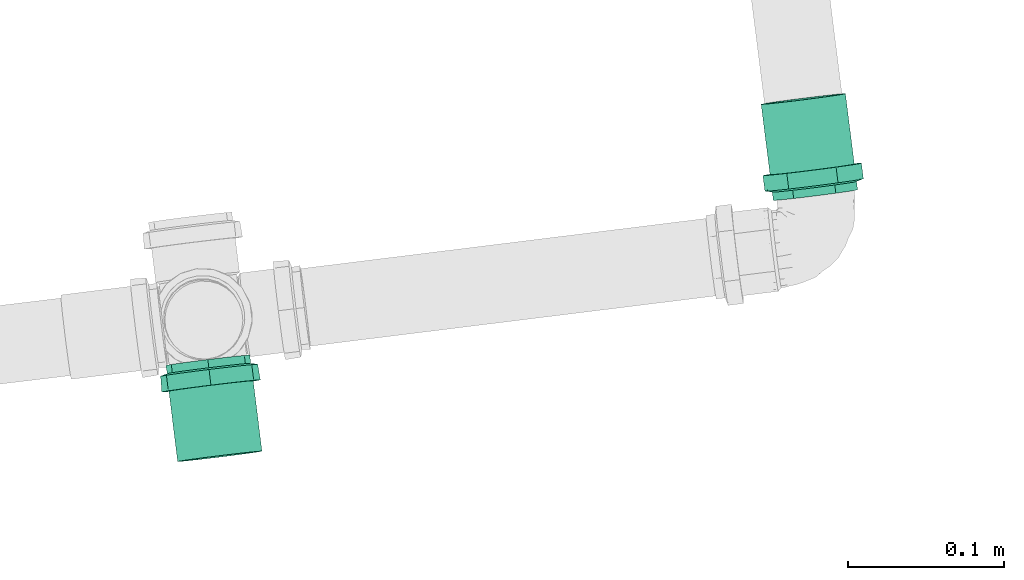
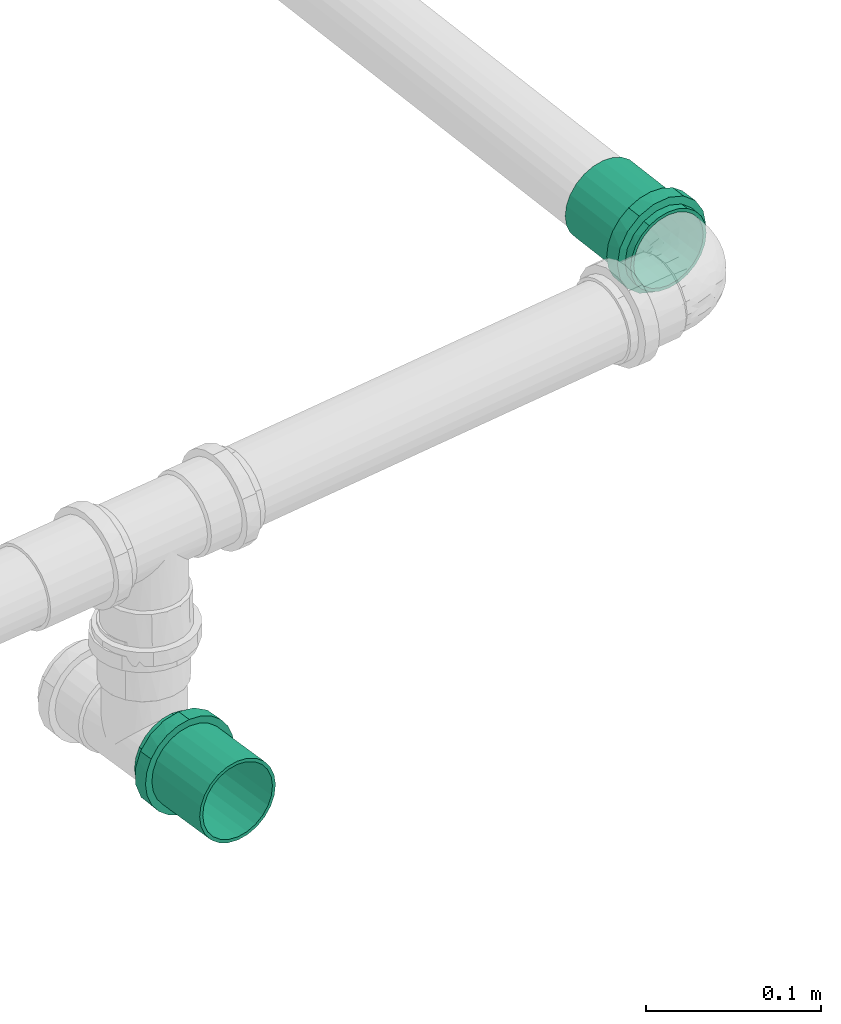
# One storey, part 16 of 97: 2 flow fittings.
"""IFC2X3 building model written with IfcOpenShell, lengths in centimetres."""

from ifc_helpers import new_model, entity, si_unit, converted_unit, derived_unit, direction, frame, origin, place, context, subcontext, project, spatial, faceted_brep, source, transform, mapped, material, type_object, type_shapes, element, save


model = new_model("IFC2X3")

# Units and contexts
model_context = context("Model", 3, precision=0.001, world=origin(), true_north=direction((6.12303176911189e-17, 1.0)))
body_context = subcontext(model_context, "Body", "Model", "MODEL_VIEW")
ifc_project = project(units=[si_unit("LENGTHUNIT", "METRE", prefix="CENTI"), si_unit("AREAUNIT", "SQUARE_METRE"), si_unit("VOLUMEUNIT", "CUBIC_METRE"), converted_unit("PLANEANGLEUNIT", "DEGREE", entity("IfcRatioMeasure", 0.0174532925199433), si_unit("PLANEANGLEUNIT", "RADIAN"), dimensions=[0, 0, 0, 0, 0, 0, 0]), si_unit("MASSUNIT", "GRAM", prefix="KILO"), derived_unit("MASSDENSITYUNIT", [(si_unit("MASSUNIT", "GRAM", prefix="KILO"), 1), (si_unit("LENGTHUNIT", "METRE"), -3)]), derived_unit("MOMENTOFINERTIAUNIT", [(si_unit("LENGTHUNIT", "METRE"), 4)]), si_unit("TIMEUNIT", "SECOND"), si_unit("FREQUENCYUNIT", "HERTZ"), si_unit("THERMODYNAMICTEMPERATUREUNIT", "DEGREE_CELSIUS"), derived_unit("THERMALTRANSMITTANCEUNIT", [(si_unit("MASSUNIT", "GRAM", prefix="KILO"), 1), (si_unit("THERMODYNAMICTEMPERATUREUNIT", "KELVIN"), -1), (si_unit("TIMEUNIT", "SECOND"), -3)]), derived_unit("VOLUMETRICFLOWRATEUNIT", [(si_unit("LENGTHUNIT", "METRE"), 3), (si_unit("TIMEUNIT", "SECOND"), -1)]), si_unit("ELECTRICCURRENTUNIT", "AMPERE"), si_unit("ELECTRICVOLTAGEUNIT", "VOLT"), si_unit("POWERUNIT", "WATT"), si_unit("FORCEUNIT", "NEWTON", prefix="KILO"), si_unit("ILLUMINANCEUNIT", "LUX"), si_unit("LUMINOUSFLUXUNIT", "LUMEN"), si_unit("LUMINOUSINTENSITYUNIT", "CANDELA"), derived_unit("USERDEFINED", [(si_unit("MASSUNIT", "GRAM", prefix="KILO"), -1), (si_unit("LENGTHUNIT", "METRE"), -2), (si_unit("TIMEUNIT", "SECOND"), 3), (si_unit("LUMINOUSFLUXUNIT", "LUMEN"), 1)]), derived_unit("LINEARVELOCITYUNIT", [(si_unit("LENGTHUNIT", "METRE"), 1), (si_unit("TIMEUNIT", "SECOND"), -1)]), si_unit("PRESSUREUNIT", "PASCAL"), derived_unit("USERDEFINED", [(si_unit("LENGTHUNIT", "METRE"), -2), (si_unit("MASSUNIT", "GRAM", prefix="KILO"), 1), (si_unit("TIMEUNIT", "SECOND"), -2)]), derived_unit("LINEARFORCEUNIT", [(si_unit("MASSUNIT", "GRAM", prefix="KILO"), 1), (si_unit("LENGTHUNIT", "METRE"), 1), (si_unit("TIMEUNIT", "SECOND"), -2), (si_unit("LENGTHUNIT", "METRE"), -1)]), derived_unit("PLANARFORCEUNIT", [(si_unit("MASSUNIT", "GRAM", prefix="KILO"), 1), (si_unit("LENGTHUNIT", "METRE"), 1), (si_unit("TIMEUNIT", "SECOND"), -2), (si_unit("LENGTHUNIT", "METRE"), -2)])], contexts=[model_context])

# Site, building, storey
site_placement = place(None, origin())
site = spatial("IfcSite", under=ifc_project, at=site_placement, Name="Default", CompositionType="ELEMENT")
building_placement = place(site_placement, origin())
building = spatial("IfcBuilding", under=site, at=building_placement, Name="HIDROSSANITÁRIO", CompositionType="ELEMENT")
storey_placement = place(building_placement, frame((0.0, 0.0, -260.0)))
storey = spatial("IfcBuildingStorey", under=building, at=storey_placement, Name="TÉRREO-HID", CompositionType="ELEMENT", Elevation=-260.0)

# Flow fittings
ifc_material = material(Name="PVC Branco")
pipe_fitting_type = type_object("IfcPipeFittingType", Name="Luva Simples para Conexão - Serie Normal - Esgoto - MEP - Tigre:Standard", PredefinedType="NOTDEFINED", material=ifc_material)
shared_shape = source(origin(), body_context, "Body", "Brep", [
    faceted_brep([(1.65999999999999, 1.59, -2.75396078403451), (1.65999999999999, 2.24859956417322, -2.24859956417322), (1.65999999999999, 1.35999999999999, -2.35558909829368), (1.65999999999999, 0.703987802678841, -2.62731824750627), (1.65999999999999, 0.82304456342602, -3.07164412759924), (1.65999999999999, 1.9233304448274, -1.92333044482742), (1.65999999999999, 2.75396078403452, -1.59), (1.65999999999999, 2.35558909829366, -1.36000000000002), (1.65999999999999, 2.62731824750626, -0.703987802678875), (1.65999999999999, 3.07164412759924, -0.823044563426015), (1.65999999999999, 2.72, 0.0), (1.65999999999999, 3.18, 0.0), (1.65999999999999, 2.62731824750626, 0.703987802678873), (1.65999999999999, 3.07164412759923, 0.823044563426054), (1.65999999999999, 2.35558909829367, 1.36000000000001), (1.65999999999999, 2.7539607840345, 1.59000000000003), (1.65999999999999, 1.9233304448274, 1.92333044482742), (1.65999999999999, 2.24859956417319, 2.24859956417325), (1.65999999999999, 1.35999999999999, 2.35558909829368), (1.65999999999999, 1.58999999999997, 2.75396078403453), (1.65999999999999, 0.703987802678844, 2.62731824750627), (1.65999999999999, 0.823044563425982, 3.07164412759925), (1.65999999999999, 0.0, 2.72), (1.65999999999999, 0.0, 3.18), (1.65999999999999, -0.703987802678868, 2.62731824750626), (1.65999999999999, -0.823044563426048, 3.07164412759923), (1.65999999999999, -1.36000000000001, 2.35558909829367), (1.65999999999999, -1.59000000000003, 2.7539607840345), (1.65999999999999, -1.92333044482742, 1.9233304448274), (1.65999999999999, -2.24859956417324, 2.2485995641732), (1.65999999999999, -2.35558909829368, 1.35999999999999), (1.65999999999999, -2.75396078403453, 1.58999999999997), (1.65999999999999, -3.07164412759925, 0.823044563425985), (1.65999999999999, -2.62731824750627, 0.703987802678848), (1.65999999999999, -3.18, 0.0), (1.65999999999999, -2.72, 0.0), (1.65999999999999, -3.07164412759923, -0.823044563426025), (1.65999999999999, -2.62731824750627, -0.703987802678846), (1.65999999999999, -2.75396078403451, -1.59000000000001), (1.65999999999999, -2.35558909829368, -1.35999999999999), (1.65999999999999, -2.24859956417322, -2.24859956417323), (1.65999999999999, -1.92333044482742, -1.9233304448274), (1.65999999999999, -1.58999999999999, -2.75396078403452), (1.65999999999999, -1.36000000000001, -2.35558909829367), (1.65999999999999, -0.823044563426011, -3.07164412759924), (1.65999999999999, -0.70398780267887, -2.62731824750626), (1.65999999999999, 0.0, -3.18), (1.65999999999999, 0.0, -2.72), (0.650000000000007, -1.07081089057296, 2.94292196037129), (0.650000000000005, -2.43590738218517, 2.04420038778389), (0.650000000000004, -2.7120498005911, 1.56595386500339), (0.650000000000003, -2.98819221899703, 1.08770734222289), (0.650000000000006, -1.58976972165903, 2.75409372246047), (0.650000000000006, -2.0128385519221, 2.39914705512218), (0.650000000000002, -3.08409610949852, 0.54385367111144), (0.650000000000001, -3.18, 0.0), (0.650000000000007, -0.551852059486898, 3.13175019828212), (0.650000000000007, 0.552637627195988, 3.13161167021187), (0.650000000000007, 0.000392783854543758, 3.13168093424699), (0.650000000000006, 2.01344030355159, 2.39864206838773), (0.650000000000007, 1.07154907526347, 2.94265325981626), (0.650000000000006, 1.59046052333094, 2.75369484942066), (0.650000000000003, 2.98846497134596, 1.08695773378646), (0.650000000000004, 2.7124425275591, 1.56527351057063), (0.650000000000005, 2.43642008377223, 2.0435892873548), (0.650000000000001, 3.18, 0.0), (0.649999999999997, 2.43642008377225, -2.04358928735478), (0.649999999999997, 2.71244252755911, -1.5652735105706), (0.649999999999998, 2.98846497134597, -1.08695773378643), (0.649999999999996, 1.59046052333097, -2.75369484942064), (0.649999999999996, 2.01344030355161, -2.39864206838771), (0.649999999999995, 1.07154907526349, -2.94265325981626), (0.649999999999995, 0.552637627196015, -3.13161167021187), (0.649999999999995, -0.551852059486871, -3.13175019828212), (0.649999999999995, 0.000392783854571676, -3.13168093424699), (0.649999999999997, -2.01283855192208, -2.3991470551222), (0.649999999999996, -1.58976972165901, -2.75409372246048), (0.649999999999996, -1.07081089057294, -2.9429219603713), (0.649999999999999, -2.98819221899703, -1.08770734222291), (0.649999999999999, -2.71204980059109, -1.56595386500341), (0.649999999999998, -2.43590738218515, -2.04420038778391), (0.65, -3.08409610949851, -0.543853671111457), (0.64999999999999, -3.06961738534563, -0.625959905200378), (6.20000000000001, 1.36, -2.35558909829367), (6.20000000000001, 1.92333044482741, -1.92333044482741), (6.20000000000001, 1.24999999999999, -2.1650635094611), (6.20000000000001, 0.647047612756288, -2.41481456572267), (6.20000000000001, 0.70398780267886, -2.62731824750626), (6.20000000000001, 1.76776695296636, -1.76776695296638), (6.20000000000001, 2.35558909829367, -1.36), (6.20000000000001, 2.16506350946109, -1.25000000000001), (6.20000000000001, 2.41481456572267, -0.647047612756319), (6.20000000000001, 2.62731824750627, -0.703987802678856), (6.20000000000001, 2.5, 0.0), (6.20000000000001, 2.72, 0.0), (6.20000000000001, 2.41481456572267, 0.647047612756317), (6.20000000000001, 2.62731824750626, 0.703987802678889), (6.20000000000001, 2.16506350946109, 1.25000000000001), (6.20000000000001, 2.35558909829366, 1.36000000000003), (6.20000000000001, 1.76776695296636, 1.76776695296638), (6.20000000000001, 1.92333044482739, 1.92333044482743), (6.20000000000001, 1.24999999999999, 2.1650635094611), (6.20000000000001, 1.35999999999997, 2.35558909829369), (6.20000000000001, 0.64704761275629, 2.41481456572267), (6.20000000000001, 0.703987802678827, 2.62731824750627), (6.20000000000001, 0.0, 2.5), (6.20000000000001, 0.0, 2.72), (6.20000000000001, -0.647047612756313, 2.41481456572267), (6.20000000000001, -0.703987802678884, 2.62731824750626), (6.20000000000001, -1.25000000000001, 2.16506350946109), (6.20000000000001, -1.36000000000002, 2.35558909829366), (6.20000000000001, -1.76776695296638, 1.76776695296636), (6.20000000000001, -1.92333044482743, 1.92333044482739), (6.20000000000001, -2.1650635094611, 1.24999999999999), (6.20000000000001, -2.35558909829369, 1.35999999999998), (6.20000000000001, -2.62731824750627, 0.703987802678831), (6.20000000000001, -2.41481456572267, 0.647047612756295), (6.20000000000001, -2.72, 0.0), (6.20000000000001, -2.5, 0.0), (6.20000000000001, -2.62731824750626, -0.703987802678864), (6.20000000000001, -2.41481456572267, -0.647047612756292), (6.20000000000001, -2.35558909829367, -1.36000000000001), (6.20000000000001, -2.1650635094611, -1.24999999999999), (6.20000000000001, -1.9233304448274, -1.92333044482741), (6.20000000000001, -1.76776695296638, -1.76776695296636), (6.20000000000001, -1.36, -2.35558909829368), (6.20000000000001, -1.25000000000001, -2.16506350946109), (6.20000000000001, -0.703987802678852, -2.62731824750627), (6.20000000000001, -0.647047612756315, -2.41481456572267), (6.20000000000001, 0.0, -2.72), (6.20000000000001, 0.0, -2.5), (0.0, 1.24999999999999, -2.1650635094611), (0.0, 1.92333044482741, -1.92333044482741), (0.0, 1.36, -2.35558909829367), (0.0, 0.647047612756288, -2.41481456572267), (0.0, 1.76776695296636, -1.76776695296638), (0.0, 2.35558909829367, -1.36), (0.0, 2.16506350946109, -1.25000000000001), (0.0, 2.41481456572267, -0.647047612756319), (0.0, 2.62731824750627, -0.703987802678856), (0.0, 2.5, 0.0), (0.0, 2.72, 0.0), (0.0, 2.41481456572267, 0.647047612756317), (0.0, 2.62731824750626, 0.703987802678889), (0.0, 2.16506350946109, 1.25000000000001), (0.0, 2.35558909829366, 1.36000000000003), (0.0, 1.76776695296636, 1.76776695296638), (0.0, 1.92333044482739, 1.92333044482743), (0.0, 1.24999999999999, 2.1650635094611), (0.0, 1.35999999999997, 2.35558909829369), (0.0, 0.64704761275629, 2.41481456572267), (0.0, 0.703987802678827, 2.62731824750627), (0.0, 0.0, 2.5), (0.0, 0.0, 2.72), (0.0, -0.647047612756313, 2.41481456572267), (0.0, -0.703987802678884, 2.62731824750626), (0.0, -1.25000000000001, 2.16506350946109), (0.0, -1.36000000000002, 2.35558909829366), (0.0, -1.76776695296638, 1.76776695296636), (0.0, -1.92333044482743, 1.92333044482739), (0.0, -2.1650635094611, 1.24999999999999), (0.0, -2.35558909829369, 1.35999999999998), (0.0, -2.62731824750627, 0.703987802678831), (0.0, -2.41481456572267, 0.647047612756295), (0.0, -2.72, 0.0), (0.0, -2.5, 0.0), (0.0, -2.62731824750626, -0.703987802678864), (0.0, -2.41481456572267, -0.647047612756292), (0.0, -2.35558909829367, -1.36000000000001), (0.0, -2.1650635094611, -1.24999999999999), (0.0, -1.9233304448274, -1.92333044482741), (0.0, -1.76776695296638, -1.76776695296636), (0.0, -1.36, -2.35558909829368), (0.0, -1.25000000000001, -2.16506350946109), (0.0, -0.703987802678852, -2.62731824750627), (0.0, -0.647047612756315, -2.41481456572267), (0.0, 0.0, -2.72), (0.0, 0.0, -2.5), (0.0, 0.70398780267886, -2.62731824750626), (0.53, -2.63796899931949, 0.465183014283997), (0.529999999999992, -2.62558467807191, 0.535412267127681), (0.530000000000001, -2.55593799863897, 0.930366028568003), (0.530000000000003, -2.08354342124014, 1.74849844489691), (0.530000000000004, -1.72167322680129, 2.05210062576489), (0.530000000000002, -2.31974070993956, 1.33943223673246), (0.530000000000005, -0.472024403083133, 2.67872972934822), (0.530000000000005, -0.915913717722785, 2.51721626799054), (0.53, -2.72, 0.0), (0.530000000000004, -1.35980303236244, 2.35570280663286), (0.530000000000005, 0.916545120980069, 2.51698643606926), (0.530000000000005, 1.36039390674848, 2.35536163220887), (0.530000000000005, 0.47269633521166, 2.67861123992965), (0.530000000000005, 1.72218793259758, 2.05166868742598), (0.530000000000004, 2.08398195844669, 1.7479757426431), (0.530000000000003, 2.5561712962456, 0.929724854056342), (0.53, 2.72, 0.0), (0.530000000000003, 2.32007662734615, 1.33885029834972), (0.530000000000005, 0.000335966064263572, 2.67867048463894), (0.529999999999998, 2.55617129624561, -0.929724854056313), (0.529999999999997, 2.08398195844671, -1.74797574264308), (0.529999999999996, 1.7221879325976, -2.05166868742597), (0.529999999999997, 2.32007662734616, -1.3388502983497), (0.529999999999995, 0.472696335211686, -2.67861123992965), (0.529999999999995, 0.916545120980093, -2.51698643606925), (0.529999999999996, 1.3603939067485, -2.35536163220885), (0.529999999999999, -2.63796899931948, -0.465183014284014), (0.529999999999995, -0.915913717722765, -2.51721626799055), (0.529999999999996, -1.35980303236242, -2.35570280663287), (0.529999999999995, -0.47202440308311, -2.67872972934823), (0.529999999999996, -1.72167322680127, -2.0521006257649), (0.529999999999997, -2.08354342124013, -1.74849844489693), (0.529999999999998, -2.55593799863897, -0.930366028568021), (0.529999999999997, -2.31974070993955, -1.33943223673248), (0.529999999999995, 0.000335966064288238, -2.67867048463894), (3.9, -2.5, 0.0), (3.9, 2.5, 0.0)], [[[0, 1, 2]], [[0, 2, 3]], [[3, 4, 0]], [[2, 1, 5]], [[6, 5, 1]], [[7, 5, 6]], [[8, 7, 6]], [[8, 6, 9]], [[8, 9, 10]], [[10, 9, 11]], [[12, 10, 11]], [[12, 11, 13]], [[14, 12, 13]], [[14, 13, 15]], [[16, 14, 15]], [[15, 17, 16]], [[17, 18, 16]], [[17, 19, 18]], [[18, 19, 20]], [[21, 20, 19]], [[20, 21, 22]], [[22, 21, 23]], [[22, 23, 24]], [[24, 23, 25]], [[24, 25, 26]], [[27, 26, 25]], [[27, 28, 26]], [[28, 27, 29]], [[30, 28, 29]], [[31, 30, 29]], [[32, 30, 31]], [[33, 30, 32]], [[33, 32, 34]], [[35, 33, 34]], [[36, 35, 34]], [[36, 37, 35]], [[37, 36, 38]], [[39, 37, 38]], [[39, 38, 40]], [[39, 40, 41]], [[40, 42, 41]], [[41, 42, 43]], [[43, 42, 44]], [[44, 45, 43]], [[46, 45, 44]], [[4, 47, 46]], [[46, 47, 45]], [[4, 3, 47]], [[48, 27, 25]], [[31, 29, 49]], [[31, 49, 50, 51]], [[52, 53, 27]], [[32, 51, 54]], [[54, 55, 34]], [[54, 34, 32]], [[25, 56, 48]], [[49, 29, 53]], [[23, 57, 58, 56]], [[59, 19, 17]], [[27, 53, 29]], [[48, 52, 27]], [[31, 51, 32]], [[57, 23, 21]], [[60, 19, 61]], [[15, 62, 63, 64]], [[19, 60, 21]], [[15, 13, 62]], [[17, 64, 59]], [[57, 21, 60]], [[23, 56, 25]], [[15, 64, 17]], [[13, 65, 62]], [[13, 11, 65]], [[59, 61, 19]], [[65, 11, 9]], [[6, 1, 66]], [[6, 66, 67, 68]], [[69, 70, 0]], [[68, 65, 9]], [[71, 69, 0]], [[71, 0, 4]], [[4, 72, 71]], [[66, 1, 70]], [[46, 73, 74, 72]], [[75, 76, 42]], [[0, 70, 1]], [[75, 42, 40]], [[6, 68, 9]], [[73, 46, 44]], [[77, 42, 76]], [[38, 78, 79, 80]], [[42, 77, 44]], [[38, 36, 78]], [[40, 80, 75]], [[73, 44, 77]], [[46, 72, 4]], [[38, 80, 40]], [[36, 81, 82, 78]], [[55, 81, 34]], [[34, 81, 36]], [[83, 84, 85]], [[83, 85, 86]], [[86, 87, 83]], [[85, 84, 88]], [[89, 88, 84]], [[88, 89, 90]], [[90, 89, 91]], [[92, 91, 89]], [[92, 93, 91]], [[93, 92, 94]], [[95, 93, 94]], [[94, 96, 95]], [[95, 96, 97]], [[98, 97, 96]], [[97, 98, 99]], [[99, 98, 100]], [[101, 99, 100]], [[100, 102, 101]], [[101, 102, 103]], [[104, 103, 102]], [[103, 104, 105]], [[105, 104, 106]], [[105, 106, 107]], [[107, 106, 108]], [[107, 108, 109]], [[110, 109, 108]], [[110, 111, 109]], [[111, 110, 112]], [[112, 113, 111]], [[114, 113, 112]], [[113, 114, 115]], [[115, 116, 113]], [[117, 116, 115]], [[117, 118, 116]], [[119, 118, 117]], [[119, 120, 118]], [[120, 119, 121]], [[121, 122, 120]], [[122, 121, 123]], [[122, 123, 124]], [[123, 125, 124]], [[124, 125, 126]], [[126, 125, 127]], [[127, 128, 126]], [[129, 128, 127]], [[87, 130, 129]], [[129, 130, 128]], [[87, 86, 130]], [[131, 132, 133]], [[134, 131, 133]], [[135, 132, 131]], [[132, 135, 136]], [[137, 136, 135]], [[138, 136, 137]], [[136, 138, 139]], [[138, 140, 139]], [[141, 139, 140]], [[141, 140, 142]], [[142, 143, 141]], [[144, 143, 142]], [[143, 144, 145]], [[146, 145, 144]], [[147, 145, 146]], [[147, 146, 148]], [[148, 149, 147]], [[150, 149, 148]], [[149, 150, 151]], [[152, 151, 150]], [[153, 151, 152]], [[154, 153, 152]], [[155, 153, 154]], [[156, 155, 154]], [[155, 156, 157]], [[156, 158, 157]], [[159, 157, 158]], [[158, 160, 159]], [[159, 160, 161]], [[162, 161, 160]], [[160, 163, 162]], [[162, 163, 164]], [[163, 165, 164]], [[164, 165, 166]], [[165, 167, 166]], [[168, 166, 167]], [[167, 169, 168]], [[170, 168, 169]], [[171, 170, 169]], [[171, 172, 170]], [[173, 172, 171]], [[174, 172, 173]], [[173, 175, 174]], [[174, 175, 176]], [[175, 177, 176]], [[177, 134, 178]], [[176, 177, 178]], [[133, 178, 134]], [[162, 179, 180, 181]], [[159, 182, 183]], [[182, 161, 181, 184]], [[185, 155, 186]], [[161, 162, 181]], [[187, 179, 164]], [[183, 188, 157]], [[183, 157, 159]], [[161, 182, 159]], [[189, 190, 149]], [[189, 149, 151]], [[157, 188, 186]], [[157, 186, 155]], [[153, 155, 185]], [[164, 179, 162]], [[151, 191, 189]], [[147, 192, 193]], [[143, 194, 195]], [[194, 145, 193, 196]], [[143, 195, 141]], [[10, 12, 96, 94]], [[149, 192, 147]], [[153, 185, 197, 191]], [[153, 191, 151]], [[145, 147, 193]], [[190, 192, 149]], [[145, 194, 143]], [[139, 195, 198]], [[132, 199, 200]], [[199, 136, 198, 201]], [[202, 178, 203]], [[136, 139, 198]], [[139, 141, 195]], [[92, 8, 10, 94]], [[133, 203, 178]], [[200, 204, 133]], [[136, 199, 132]], [[205, 164, 166]], [[206, 207, 172]], [[133, 204, 203]], [[206, 172, 174]], [[176, 178, 202]], [[200, 133, 132]], [[174, 208, 206]], [[170, 209, 210]], [[166, 211, 205]], [[211, 168, 210, 212]], [[168, 211, 166]], [[172, 209, 170]], [[176, 202, 213, 208]], [[176, 208, 174]], [[168, 170, 210]], [[207, 209, 172]], [[205, 187, 164]], [[116, 118, 214, 165, 163]], [[156, 109, 111, 158]], [[111, 113, 160, 158]], [[113, 116, 163, 160]], [[107, 109, 156, 154]], [[154, 152, 105, 107]], [[103, 105, 152, 150]], [[103, 150, 148, 101]], [[142, 95, 97, 144]], [[97, 99, 146, 144]], [[99, 101, 148, 146]], [[93, 95, 142, 140, 215]], [[215, 140, 138, 91, 93]], [[135, 131, 85, 88]], [[90, 91, 138, 137]], [[90, 137, 135, 88]], [[86, 85, 131, 134]], [[134, 177, 130, 86]], [[128, 130, 177, 175]], [[128, 175, 173, 126]], [[167, 120, 122, 169]], [[122, 124, 171, 169]], [[124, 126, 173, 171]], [[118, 120, 167, 165, 214]], [[211, 78, 82, 81, 55, 187, 205]], [[79, 78, 211, 212, 210, 80]], [[75, 80, 210, 209, 207, 76]], [[207, 206, 208, 73, 77, 76]], [[213, 202, 72, 74, 73, 208]], [[203, 204, 69, 71, 72, 202]], [[198, 195, 65, 68]], [[199, 201, 198, 68, 67, 66]], [[204, 200, 199, 66, 70, 69]], [[195, 194, 62, 65]], [[197, 185, 56, 58, 57, 191]], [[63, 62, 194, 196, 193, 64]], [[57, 60, 61, 190, 189, 191]], [[193, 192, 190, 61, 59, 64]], [[48, 56, 185, 186, 188, 52]], [[187, 55, 54, 51, 181, 180, 179]], [[182, 184, 181, 51, 50, 49]], [[188, 183, 182, 49, 53, 52]], [[30, 33, 115, 114]], [[117, 115, 33, 35]], [[26, 28, 112, 110]], [[114, 112, 28, 30]], [[24, 26, 110, 108]], [[108, 106, 22, 24]], [[18, 20, 104, 102]], [[100, 16, 18, 102]], [[12, 14, 98, 96]], [[100, 98, 14, 16]], [[104, 20, 22, 106]], [[89, 7, 8, 92]], [[83, 87, 3, 2]], [[7, 89, 84, 5]], [[83, 2, 5, 84]], [[87, 129, 47, 3]], [[43, 45, 127, 125]], [[123, 41, 43, 125]], [[37, 39, 121, 119]], [[123, 121, 39, 41]], [[35, 37, 119, 117]], [[127, 45, 47, 129]]]),
])
type_shapes(pipe_fitting_type, [shared_shape])
for number, where, z_axis, x_axis, name in (
    (1, (-1662.49546348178, 2845.11500101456, -32.9686282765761), (0.992438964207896, 0.122739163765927, 0.0), (0.122720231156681, -0.992285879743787, 0.0175635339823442), "Luva Simples para Conexão - Serie Normal - Esgoto - MEP - Tigre:Standard"),
    (2, (-1623.60552667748, 2855.69252559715, -17.8977394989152), (-0.0173730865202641, -0.0223441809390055, 0.999599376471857), (-0.125237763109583, 0.991925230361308, 0.0199960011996), "Luva Simples para Conexão - Serie Normal - Esgoto - MEP - Tigre:Standard"),
):
    element("IfcFlowFitting", number, at=place(storey_placement, frame(where, z_axis=z_axis, x_axis=x_axis)), inside=storey, type_object=pipe_fitting_type, material=ifc_material, Name=name, ObjectType="Luva Simples para Conexão - Serie Normal - Esgoto - MEP - Tigre:Standard", context=body_context, shape_type="MappedRepresentation", body=[
        mapped(shared_shape, transform((0.0, 0.0, 0.0), scale=1.0)),
    ])

save(model, "model.ifc")
